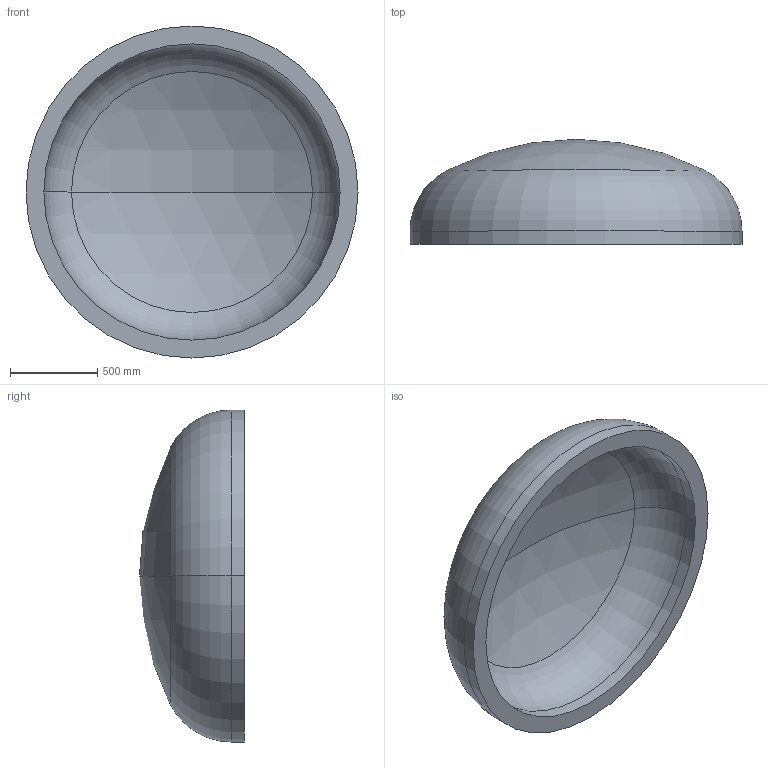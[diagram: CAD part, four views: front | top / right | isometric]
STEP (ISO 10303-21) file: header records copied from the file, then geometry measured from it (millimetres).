
FILE_DESCRIPTION (( 'STEP AP203' ), '1' );
FILE_NAME ('DIN 28013 Korbbogenform_-_Boden DIN 28013 - 1900 x 75 - I - s=102.step', '2016-07-01T13:26:26', ( '' ), ( '' ), 'SwSTEP 2.0', 'SolidWorks 2013', '' );
FILE_SCHEMA (( 'CONFIG_CONTROL_DESIGN' ));
Length unit declared in the file: millimetre
Products named in the file (1): DIN 28013 Korbbogenform_-_Boden DIN 28013 - 1900 x 75 - I - s=102
Bounding box: 1900 x 600.85 x 1900 mm (x, y, z)
Volume: 416443267.7 mm3; surface area: 8763497.6 mm2
Topology: 1 solids, 1 shells, 13 faces, 24 edges, 14 vertices
Faces by surface type: torus 4, cylinder 4, sphere 4, plane 1
Entity records: 407 total; most frequent: DIRECTION 72, CARTESIAN_POINT 52, ORIENTED_EDGE 48, AXIS2_PLACEMENT_3D 34, EDGE_CURVE 24, CIRCLE 20, EDGE_LOOP 14, VERTEX_POINT 14
